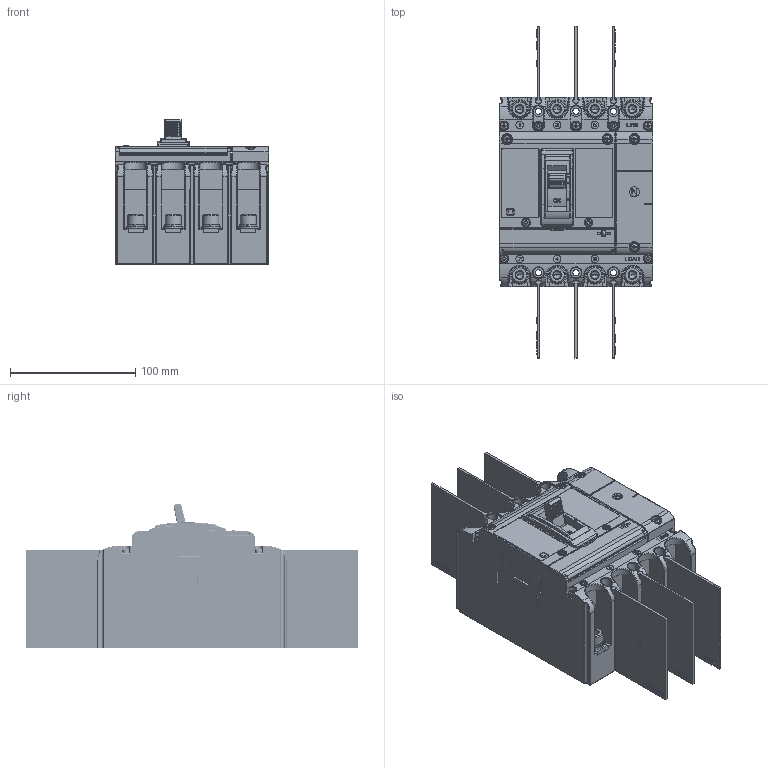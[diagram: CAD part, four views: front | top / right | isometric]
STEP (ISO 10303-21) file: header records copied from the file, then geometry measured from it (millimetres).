
FILE_DESCRIPTION (( 'STEP AP214' ), '1' );
FILE_NAME ('TGM1NE 100.125.160-4p.STEP', '2025-12-03T07:07:07', ( '' ), ( '' ), 'SwSTEP 2.0', 'SolidWorks 2024', '' );
FILE_SCHEMA (( 'AUTOMOTIVE_DESIGN' ));
Length unit declared in the file: millimetre
Products named in the file (5): TGM1NE 100.125.160-4p; 2TZD_259_6099_4_SW0001_1.stp; TGM1NE 100.125.160-4p.stp; 2TZD_259_6099_4_SW0001_2.stp; 2TZD_259_6099_4_SW0001_3.stp
Assembly tree (4 placements, depth 3):
  TGM1NE 100.125.160-4p
    TGM1NE 100.125.160-4p.stp
      2TZD_259_6099_4_SW0001_1.stp
      2TZD_259_6099_4_SW0001_2.stp
      2TZD_259_6099_4_SW0001_3.stp
Bounding box: 122.5 x 265 x 115.73 mm (x, y, z)
Volume: 687526.1 mm3; surface area: 401047 mm2
Topology: 3 solids, 3 shells, 8557 faces, 23375 edges, 15031 vertices
Faces by surface type: plane 6513, cylinder 1464, torus 200, bspline 157, cone 117, sphere 106
Entity records: 283970 total; most frequent: CARTESIAN_POINT 66947, ORIENTED_EDGE 46618, DIRECTION 42896, EDGE_CURVE 23309, LINE 18560, VECTOR 18560, VERTEX_POINT 15030, AXIS2_PLACEMENT_3D 12168
